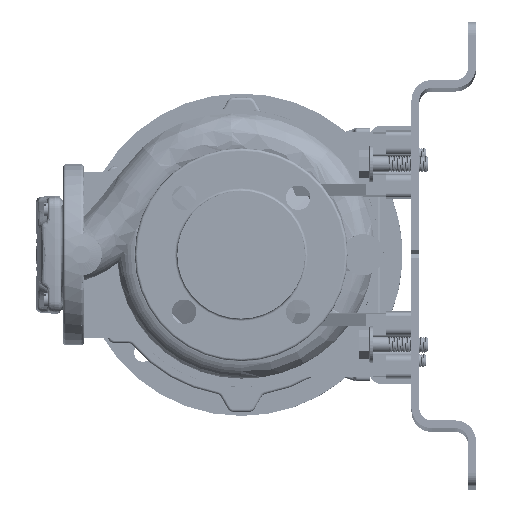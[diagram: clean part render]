
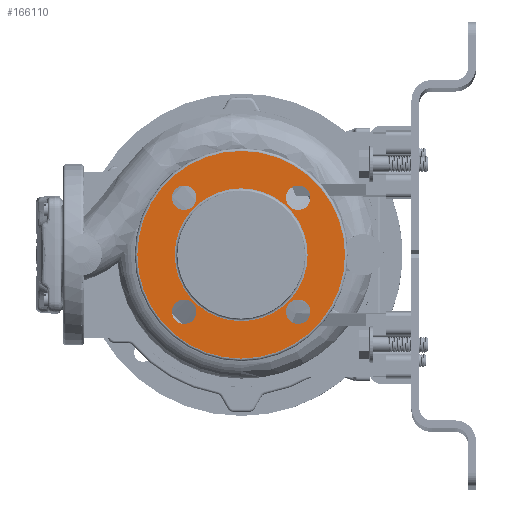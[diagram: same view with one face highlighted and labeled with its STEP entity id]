
A CAD part, left-side view. The second image highlights one B-rep face of the part: STEP entity #166110.
In plain terms, the highlighted planar face has unit normal (-1, 0, 0).
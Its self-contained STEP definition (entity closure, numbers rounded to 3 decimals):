
#1879 = EDGE_CURVE ( 'NONE', #55264, #108408, #76926, .T. ) ;
#4420 = DIRECTION ( 'NONE',  ( 0., -1., 0. ) ) ;
#6565 = ORIENTED_EDGE ( 'NONE', *, *, #180465, .F. ) ;
#7027 = CIRCLE ( 'NONE', #69683, 9.5 ) ;
#8225 = CARTESIAN_POINT ( 'NONE',  ( -121.425, 222.456, 182.078 ) ) ;
#10369 = CARTESIAN_POINT ( 'NONE',  ( -121.425, 178.261, 226.272 ) ) ;
#12304 = EDGE_CURVE ( 'NONE', #156102, #179375, #42365, .T. ) ;
#13738 = EDGE_LOOP ( 'NONE', ( #104671, #50828 ) ) ;
#14367 = DIRECTION ( 'NONE',  ( -1., 0., 0. ) ) ;
#14926 = CIRCLE ( 'NONE', #96490, 9.5 ) ;
#17080 = EDGE_LOOP ( 'NONE', ( #118112, #120283 ) ) ;
#18642 = CARTESIAN_POINT ( 'NONE',  ( -121.425, 143.567, 270.466 ) ) ;
#18831 = EDGE_CURVE ( 'NONE', #136036, #154977, #191545, .T. ) ;
#20967 = CARTESIAN_POINT ( 'NONE',  ( -121.425, 134.067, 270.466 ) ) ;
#22191 = AXIS2_PLACEMENT_3D ( 'NONE', #187100, #52559, #112388 ) ;
#22482 = CARTESIAN_POINT ( 'NONE',  ( -121.425, 134.067, 182.078 ) ) ;
#23697 = ORIENTED_EDGE ( 'NONE', *, *, #100535, .F. ) ;
#24103 = AXIS2_PLACEMENT_3D ( 'NONE', #22482, #86175, #158928 ) ;
#25967 = CARTESIAN_POINT ( 'NONE',  ( -121.425, 178.261, 226.272 ) ) ;
#28223 = EDGE_CURVE ( 'NONE', #69555, #78546, #111346, .T. ) ;
#29678 = DIRECTION ( 'NONE',  ( -1., 0., 0. ) ) ;
#30888 = CARTESIAN_POINT ( 'NONE',  ( -121.425, 126.761, 226.272 ) ) ;
#31825 = CARTESIAN_POINT ( 'NONE',  ( -121.425, 134.067, 270.466 ) ) ;
#32326 = EDGE_LOOP ( 'NONE', ( #67207, #23697 ) ) ;
#32539 = DIRECTION ( 'NONE',  ( 0., 1., 0. ) ) ;
#35082 = EDGE_CURVE ( 'NONE', #181804, #102159, #7027, .T. ) ;
#35491 = AXIS2_PLACEMENT_3D ( 'NONE', #31825, #135907, #180161 ) ;
#35891 = CARTESIAN_POINT ( 'NONE',  ( -121.425, 229.761, 226.272 ) ) ;
#36099 = CARTESIAN_POINT ( 'NONE',  ( -121.425, 231.956, 270.466 ) ) ;
#36190 = FACE_BOUND ( 'NONE', #92931, .T. ) ;
#38648 = CIRCLE ( 'NONE', #132649, 9.5 ) ;
#42365 = CIRCLE ( 'NONE', #174097, 80.5 ) ;
#44055 = CIRCLE ( 'NONE', #153776, 80.5 ) ;
#46197 = CARTESIAN_POINT ( 'NONE',  ( -121.425, 124.567, 182.078 ) ) ;
#46687 = DIRECTION ( 'NONE',  ( -1., 0., 0. ) ) ;
#48890 = ORIENTED_EDGE ( 'NONE', *, *, #109262, .F. ) ;
#50828 = ORIENTED_EDGE ( 'NONE', *, *, #56722, .F. ) ;
#52559 = DIRECTION ( 'NONE',  ( -1., 0., 0. ) ) ;
#52960 = EDGE_LOOP ( 'NONE', ( #48890, #167830 ) ) ;
#54284 = CIRCLE ( 'NONE', #35491, 9.5 ) ;
#55264 = VERTEX_POINT ( 'NONE', #88876 ) ;
#56722 = EDGE_CURVE ( 'NONE', #102159, #181804, #87552, .T. ) ;
#59129 = CARTESIAN_POINT ( 'NONE',  ( -121.425, 134.067, 182.078 ) ) ;
#64686 = FACE_BOUND ( 'NONE', #13738, .T. ) ;
#64905 = CIRCLE ( 'NONE', #24103, 9.5 ) ;
#65651 = FACE_BOUND ( 'NONE', #52960, .T. ) ;
#65774 = ORIENTED_EDGE ( 'NONE', *, *, #12304, .T. ) ;
#66159 = VERTEX_POINT ( 'NONE', #131303 ) ;
#66800 = CARTESIAN_POINT ( 'NONE',  ( -121.425, 178.261, 226.272 ) ) ;
#67207 = ORIENTED_EDGE ( 'NONE', *, *, #85960, .F. ) ;
#69555 = VERTEX_POINT ( 'NONE', #30888 ) ;
#69683 = AXIS2_PLACEMENT_3D ( 'NONE', #8225, #127972, #142729 ) ;
#70153 = DIRECTION ( 'NONE',  ( -1., 0., 0. ) ) ;
#73891 = AXIS2_PLACEMENT_3D ( 'NONE', #20967, #82737, #98461 ) ;
#76926 = CIRCLE ( 'NONE', #73891, 9.5 ) ;
#77785 = DIRECTION ( 'NONE',  ( -1., 0., 0. ) ) ;
#78546 = VERTEX_POINT ( 'NONE', #35891 ) ;
#80230 = AXIS2_PLACEMENT_3D ( 'NONE', #187406, #114642, #145081 ) ;
#82436 = DIRECTION ( 'NONE',  ( 0., -1., 0. ) ) ;
#82737 = DIRECTION ( 'NONE',  ( -1., 0., 0. ) ) ;
#83001 = AXIS2_PLACEMENT_3D ( 'NONE', #66800, #126642, #82436 ) ;
#85960 = EDGE_CURVE ( 'NONE', #102671, #66159, #14926, .T. ) ;
#86026 = DIRECTION ( 'NONE',  ( 0., -1., 0. ) ) ;
#86175 = DIRECTION ( 'NONE',  ( -1., 0., 0. ) ) ;
#87541 = CARTESIAN_POINT ( 'NONE',  ( -121.425, 212.956, 270.466 ) ) ;
#87552 = CIRCLE ( 'NONE', #109558, 9.5 ) ;
#88876 = CARTESIAN_POINT ( 'NONE',  ( -121.425, 124.567, 270.466 ) ) ;
#91531 = DIRECTION ( 'NONE',  ( 0., 0., 1. ) ) ;
#92931 = EDGE_LOOP ( 'NONE', ( #97819, #6565 ) ) ;
#96039 = FACE_OUTER_BOUND ( 'NONE', #170510, .T. ) ;
#96490 = AXIS2_PLACEMENT_3D ( 'NONE', #59129, #29678, #32539 ) ;
#97819 = ORIENTED_EDGE ( 'NONE', *, *, #28223, .F. ) ;
#98461 = DIRECTION ( 'NONE',  ( 0., 0., -1. ) ) ;
#99825 = CARTESIAN_POINT ( 'NONE',  ( -121.425, 178.261, 226.272 ) ) ;
#100535 = EDGE_CURVE ( 'NONE', #66159, #102671, #64905, .T. ) ;
#102159 = VERTEX_POINT ( 'NONE', #190877 ) ;
#102671 = VERTEX_POINT ( 'NONE', #46197 ) ;
#103074 = CARTESIAN_POINT ( 'NONE',  ( -121.425, 258.761, 226.272 ) ) ;
#103664 = CARTESIAN_POINT ( 'NONE',  ( -121.425, 222.456, 270.466 ) ) ;
#104671 = ORIENTED_EDGE ( 'NONE', *, *, #35082, .F. ) ;
#108225 = CARTESIAN_POINT ( 'NONE',  ( -121.425, 222.456, 182.078 ) ) ;
#108408 = VERTEX_POINT ( 'NONE', #18642 ) ;
#109262 = EDGE_CURVE ( 'NONE', #154977, #136036, #38648, .T. ) ;
#109558 = AXIS2_PLACEMENT_3D ( 'NONE', #108225, #77785, #91531 ) ;
#111346 = CIRCLE ( 'NONE', #83001, 51.5 ) ;
#112388 = DIRECTION ( 'NONE',  ( 0., -1., 0. ) ) ;
#114642 = DIRECTION ( 'NONE',  ( 1., 0., 0. ) ) ;
#116996 = CARTESIAN_POINT ( 'NONE',  ( -121.425, 97.761, 226.272 ) ) ;
#118112 = ORIENTED_EDGE ( 'NONE', *, *, #1879, .F. ) ;
#120283 = ORIENTED_EDGE ( 'NONE', *, *, #148513, .F. ) ;
#123565 = PLANE ( 'NONE',  #80230 ) ;
#124695 = ORIENTED_EDGE ( 'NONE', *, *, #132128, .T. ) ;
#126642 = DIRECTION ( 'NONE',  ( -1., 0., 0. ) ) ;
#127972 = DIRECTION ( 'NONE',  ( -1., 0., 0. ) ) ;
#129958 = AXIS2_PLACEMENT_3D ( 'NONE', #10369, #157703, #171485 ) ;
#131303 = CARTESIAN_POINT ( 'NONE',  ( -121.425, 143.567, 182.078 ) ) ;
#132128 = EDGE_CURVE ( 'NONE', #179375, #156102, #44055, .T. ) ;
#132649 = AXIS2_PLACEMENT_3D ( 'NONE', #103664, #46687, #4420 ) ;
#135907 = DIRECTION ( 'NONE',  ( -1., 0., 0. ) ) ;
#136036 = VERTEX_POINT ( 'NONE', #36099 ) ;
#141218 = FACE_BOUND ( 'NONE', #32326, .T. ) ;
#142729 = DIRECTION ( 'NONE',  ( 0., 0., 1. ) ) ;
#145081 = DIRECTION ( 'NONE',  ( 0., 1., 0. ) ) ;
#145694 = CIRCLE ( 'NONE', #129958, 51.5 ) ;
#148513 = EDGE_CURVE ( 'NONE', #108408, #55264, #54284, .T. ) ;
#153776 = AXIS2_PLACEMENT_3D ( 'NONE', #25967, #70153, #161456 ) ;
#154977 = VERTEX_POINT ( 'NONE', #87541 ) ;
#156102 = VERTEX_POINT ( 'NONE', #103074 ) ;
#157703 = DIRECTION ( 'NONE',  ( -1., 0., 0. ) ) ;
#158928 = DIRECTION ( 'NONE',  ( 0., 1., 0. ) ) ;
#161456 = DIRECTION ( 'NONE',  ( 0., -1., 0. ) ) ;
#166110 = ADVANCED_FACE ( 'NONE', ( #170708, #141218, #64686, #65651, #36190, #96039 ), #123565, .F. ) ;
#167830 = ORIENTED_EDGE ( 'NONE', *, *, #18831, .F. ) ;
#170510 = EDGE_LOOP ( 'NONE', ( #124695, #65774 ) ) ;
#170708 = FACE_BOUND ( 'NONE', #17080, .T. ) ;
#171485 = DIRECTION ( 'NONE',  ( 0., -1., 0. ) ) ;
#174097 = AXIS2_PLACEMENT_3D ( 'NONE', #99825, #14367, #86026 ) ;
#179375 = VERTEX_POINT ( 'NONE', #116996 ) ;
#180161 = DIRECTION ( 'NONE',  ( 0., 0., -1. ) ) ;
#180465 = EDGE_CURVE ( 'NONE', #78546, #69555, #145694, .T. ) ;
#181804 = VERTEX_POINT ( 'NONE', #190143 ) ;
#187100 = CARTESIAN_POINT ( 'NONE',  ( -121.425, 222.456, 270.466 ) ) ;
#187406 = CARTESIAN_POINT ( 'NONE',  ( -121.425, 229.761, 226.272 ) ) ;
#190143 = CARTESIAN_POINT ( 'NONE',  ( -121.425, 212.956, 182.078 ) ) ;
#190877 = CARTESIAN_POINT ( 'NONE',  ( -121.425, 231.956, 182.078 ) ) ;
#191545 = CIRCLE ( 'NONE', #22191, 9.5 ) ;
